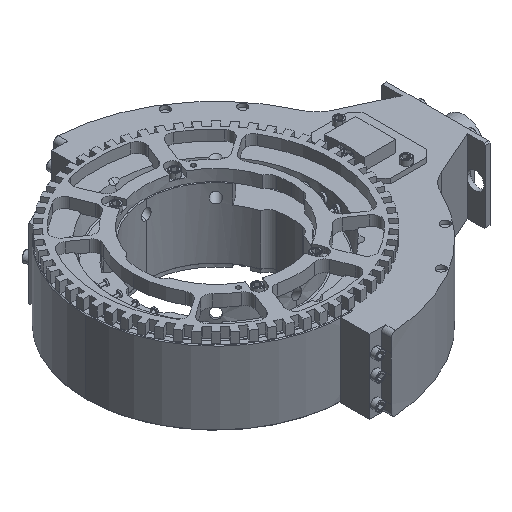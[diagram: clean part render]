
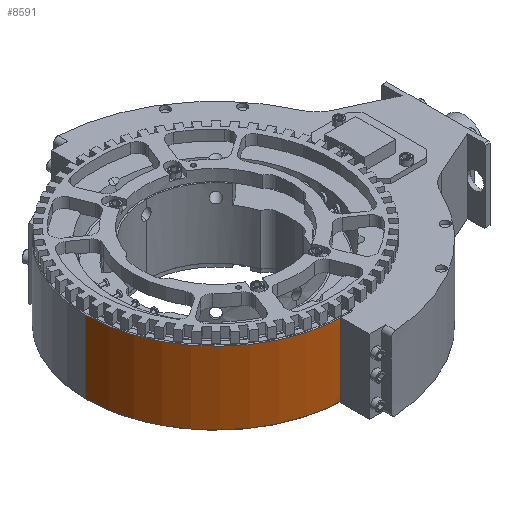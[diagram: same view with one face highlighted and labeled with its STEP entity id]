
A CAD part, isometric view. The second image highlights one B-rep face of the part: STEP entity #8591.
In plain terms, the highlighted cylindrical face has radius 47.371 mm (diameter 94.742 mm), a partial arc.
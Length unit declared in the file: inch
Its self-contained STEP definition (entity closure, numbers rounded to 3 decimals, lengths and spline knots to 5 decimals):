
#82 = ORIENTED_EDGE ( 'NONE', *, *, #84056, .T. ) ;
#1861 = CARTESIAN_POINT ( 'NONE',  ( 0.093, -1.86268, 0.1225 ) ) ;
#2020 = ORIENTED_EDGE ( 'NONE', *, *, #73606, .T. ) ;
#4797 = VERTEX_POINT ( 'NONE', #62255 ) ;
#7328 = DIRECTION ( 'NONE',  ( 0., 0., -1. ) ) ;
#8265 = VERTEX_POINT ( 'NONE', #1861 ) ;
#8591 = ADVANCED_FACE ( 'NONE', ( #88892 ), #15324, .T. ) ;
#8734 = ORIENTED_EDGE ( 'NONE', *, *, #21238, .F. ) ;
#10498 = EDGE_CURVE ( 'NONE', #53600, #101598, #32008, .T. ) ;
#11944 = CIRCLE ( 'NONE', #60573, 1.865 ) ;
#12834 = LINE ( 'NONE', #95533, #63645 ) ;
#14084 = ORIENTED_EDGE ( 'NONE', *, *, #54981, .T. ) ;
#15324 = CYLINDRICAL_SURFACE ( 'NONE', #96043, 1.865 ) ;
#18804 = DIRECTION ( 'NONE',  ( -1., 0., 0. ) ) ;
#18862 = VERTEX_POINT ( 'NONE', #49953 ) ;
#19156 = CIRCLE ( 'NONE', #68421, 1.865 ) ;
#19454 = VECTOR ( 'NONE', #27802, 39.37008 ) ;
#19617 = CARTESIAN_POINT ( 'NONE',  ( -0.0512, -1.8643, 0.9375 ) ) ;
#19884 = EDGE_LOOP ( 'NONE', ( #69648, #81946, #14084, #35396, #72811, #2020, #8734, #82 ) ) ;
#21048 = EDGE_CURVE ( 'NONE', #8265, #68787, #29864, .T. ) ;
#21238 = EDGE_CURVE ( 'NONE', #18862, #33738, #103512, .T. ) ;
#24204 = DIRECTION ( 'NONE',  ( -1., 0., 0. ) ) ;
#27802 = DIRECTION ( 'NONE',  ( 0., 0., 1. ) ) ;
#29721 = DIRECTION ( 'NONE',  ( 0., 0., -1. ) ) ;
#29864 = CIRCLE ( 'NONE', #33824, 1.865 ) ;
#31300 = CARTESIAN_POINT ( 'NONE',  ( -1.865, 0., 1.06 ) ) ;
#32008 = LINE ( 'NONE', #31300, #62783 ) ;
#32777 = DIRECTION ( 'NONE',  ( 0., 0., -1. ) ) ;
#33071 = DIRECTION ( 'NONE',  ( 0., 0., -1. ) ) ;
#33114 = DIRECTION ( 'NONE',  ( -1., 0., 0. ) ) ;
#33738 = VERTEX_POINT ( 'NONE', #19617 ) ;
#33824 = AXIS2_PLACEMENT_3D ( 'NONE', #90659, #29721, #99302 ) ;
#34764 = DIRECTION ( 'NONE',  ( 0., 0., 1. ) ) ;
#35396 = ORIENTED_EDGE ( 'NONE', *, *, #84898, .T. ) ;
#36362 = DIRECTION ( 'NONE',  ( 0., 0., 1. ) ) ;
#44919 = CARTESIAN_POINT ( 'NONE',  ( -1.865, 0., 0.01 ) ) ;
#47493 = LINE ( 'NONE', #86862, #19454 ) ;
#49953 = CARTESIAN_POINT ( 'NONE',  ( 0.093, -1.86268, 0.9375 ) ) ;
#53600 = VERTEX_POINT ( 'NONE', #65752 ) ;
#54981 = EDGE_CURVE ( 'NONE', #101598, #4797, #19156, .T. ) ;
#56660 = AXIS2_PLACEMENT_3D ( 'NONE', #85378, #33071, #76404 ) ;
#60573 = AXIS2_PLACEMENT_3D ( 'NONE', #92933, #7328, #33114 ) ;
#62255 = CARTESIAN_POINT ( 'NONE',  ( 0.093, -1.86268, 0.01 ) ) ;
#62783 = VECTOR ( 'NONE', #32777, 39.37008 ) ;
#63645 = VECTOR ( 'NONE', #77571, 39.37008 ) ;
#65752 = CARTESIAN_POINT ( 'NONE',  ( -1.865, 0., 1.05 ) ) ;
#68421 = AXIS2_PLACEMENT_3D ( 'NONE', #103304, #36362, #18804 ) ;
#68787 = VERTEX_POINT ( 'NONE', #94401 ) ;
#69648 = ORIENTED_EDGE ( 'NONE', *, *, #79173, .T. ) ;
#72811 = ORIENTED_EDGE ( 'NONE', *, *, #21048, .T. ) ;
#72895 = VECTOR ( 'NONE', #34764, 39.37008 ) ;
#73606 = EDGE_CURVE ( 'NONE', #68787, #33738, #47493, .T. ) ;
#76404 = DIRECTION ( 'NONE',  ( -1., 0., 0. ) ) ;
#76492 = CARTESIAN_POINT ( 'NONE',  ( 0., 0., 1.06 ) ) ;
#77571 = DIRECTION ( 'NONE',  ( 0., 0., 1. ) ) ;
#79173 = EDGE_CURVE ( 'NONE', #104733, #53600, #11944, .T. ) ;
#81946 = ORIENTED_EDGE ( 'NONE', *, *, #10498, .T. ) ;
#84056 = EDGE_CURVE ( 'NONE', #18862, #104733, #12834, .T. ) ;
#84898 = EDGE_CURVE ( 'NONE', #4797, #8265, #95679, .T. ) ;
#85378 = CARTESIAN_POINT ( 'NONE',  ( 0., 0., 0.9375 ) ) ;
#86862 = CARTESIAN_POINT ( 'NONE',  ( -0.0512, -1.8643, 5.23052 ) ) ;
#88892 = FACE_OUTER_BOUND ( 'NONE', #19884, .T. ) ;
#90659 = CARTESIAN_POINT ( 'NONE',  ( 0., 0., 0.1225 ) ) ;
#91857 = DIRECTION ( 'NONE',  ( 0., 0., -1. ) ) ;
#92933 = CARTESIAN_POINT ( 'NONE',  ( 0., 0., 1.05 ) ) ;
#94401 = CARTESIAN_POINT ( 'NONE',  ( -0.0512, -1.8643, 0.1225 ) ) ;
#95533 = CARTESIAN_POINT ( 'NONE',  ( 0.093, -1.86268, 1.06 ) ) ;
#95679 = LINE ( 'NONE', #101734, #72895 ) ;
#96043 = AXIS2_PLACEMENT_3D ( 'NONE', #76492, #91857, #24204 ) ;
#99302 = DIRECTION ( 'NONE',  ( -1., 0., 0. ) ) ;
#101598 = VERTEX_POINT ( 'NONE', #44919 ) ;
#101734 = CARTESIAN_POINT ( 'NONE',  ( 0.093, -1.86268, 1.06 ) ) ;
#103304 = CARTESIAN_POINT ( 'NONE',  ( 0., 0., 0.01 ) ) ;
#103512 = CIRCLE ( 'NONE', #56660, 1.865 ) ;
#104733 = VERTEX_POINT ( 'NONE', #108222 ) ;
#108222 = CARTESIAN_POINT ( 'NONE',  ( 0.093, -1.86268, 1.05 ) ) ;
